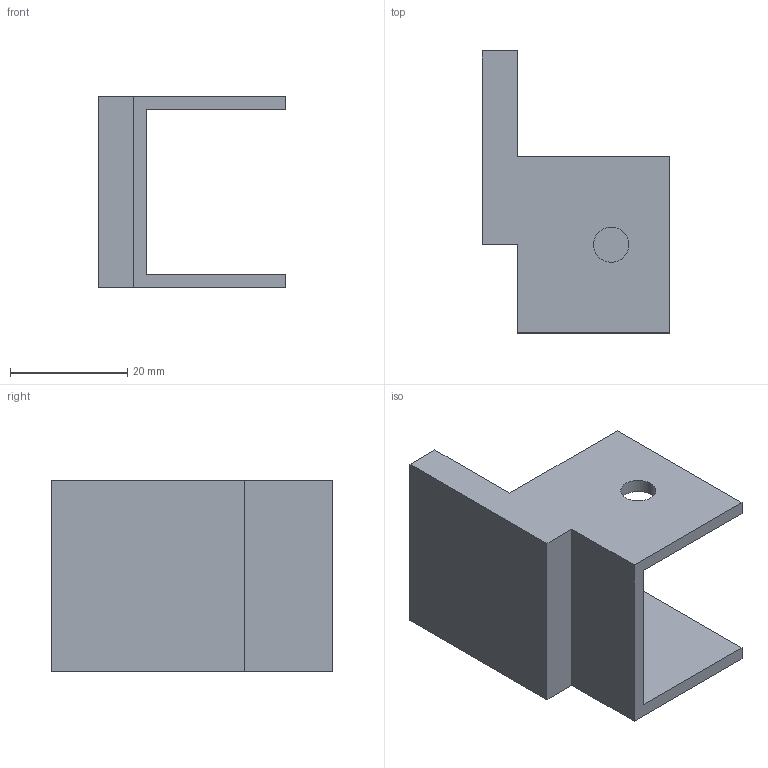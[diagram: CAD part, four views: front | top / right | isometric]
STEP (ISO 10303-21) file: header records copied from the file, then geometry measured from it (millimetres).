
FILE_DESCRIPTION (( 'STEP AP214' ), '1' );
FILE_NAME ('JB-551.step', '2024-01-17T00:58:04', ( 'catia' ), ( 'HP Inc.' ), 'SwSTEP 2.0', 'SolidWorks 2021', '' );
FILE_SCHEMA (( 'AUTOMOTIVE_DESIGN' ));
Length unit declared in the file: millimetre
Products named in the file (1): JB-551
Bounding box: 32 x 48 x 32.6 mm (x, y, z)
Volume: 11909.8 mm3; surface area: 7253.6 mm2
Topology: 1 solids, 1 shells, 16 faces, 42 edges, 28 vertices
Faces by surface type: plane 14, cylinder 2
Entity records: 528 total; most frequent: CARTESIAN_POINT 87, ORIENTED_EDGE 84, DIRECTION 80, EDGE_CURVE 42, VECTOR 38, LINE 38, VERTEX_POINT 28, AXIS2_PLACEMENT_3D 21
